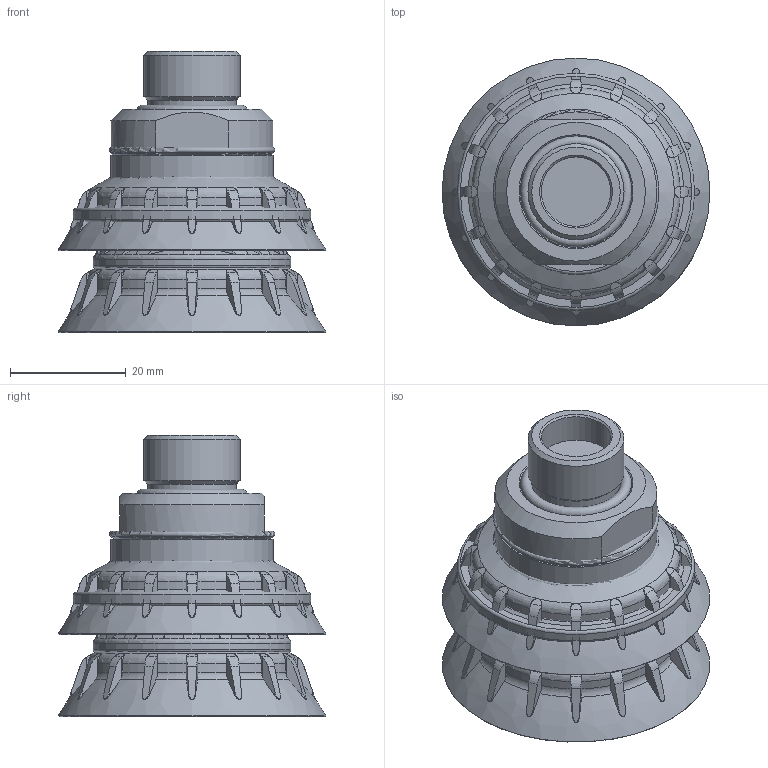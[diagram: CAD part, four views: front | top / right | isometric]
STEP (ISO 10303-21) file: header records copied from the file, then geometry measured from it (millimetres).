
FILE_DESCRIPTION( ( 'Unknown' ), '1' );
FILE_NAME( 'C:/Documents and Settings/Administrator/官帕 拳搁/Magic Cup (Dim)/B1.5/X TYPE/B1.5-40/B1.5-40-X45-N6-A-F2-38M.stp', 'Unknown', ( 'Unknown' ), ( 'Unknown' ), 'XStep 1.0', 'Unknown', ' ' );
FILE_SCHEMA( ( 'automotive_design' ) );
Length unit declared in the file: millimetre
Products named in the file (8): Assem1; Assem2; Assem3; X45(DIM); 赤40 STOPPER ; B1.5-40(DIM); 40-38M(DIM); 38M-Oring(DIM)
Bounding box: 46.28 x 46.28 x 48.65 mm (x, y, z)
Volume: 54121.7 mm3; surface area: 51377.1 mm2
Topology: 15 solids, 15 shells, 2121 faces, 5877 edges, 3786 vertices
Faces by surface type: cylinder 615, plane 525, torus 462, cone 321, bspline 198
Full cylindrical faces by diameter (mm): 12 x3, 15.3 x3, 16.6 x3, 19.3 x3, 21 x6, 21.5 x6, 22 x3, 24 x3, 24.8 x3, 27.8 x3, 28 x3, 32 x3, 34.2 x3, 41 x3
Entity records: 32084 total; most frequent: CARTESIAN_POINT 14427, ORIENTED_EDGE 3744, DIRECTION 2631, EDGE_CURVE 1872, VERTEX_POINT 1250, AXIS2_PLACEMENT_3D 1152, B_SPLINE_CURVE_WITH_KNOTS 1042, EDGE_LOOP 788
